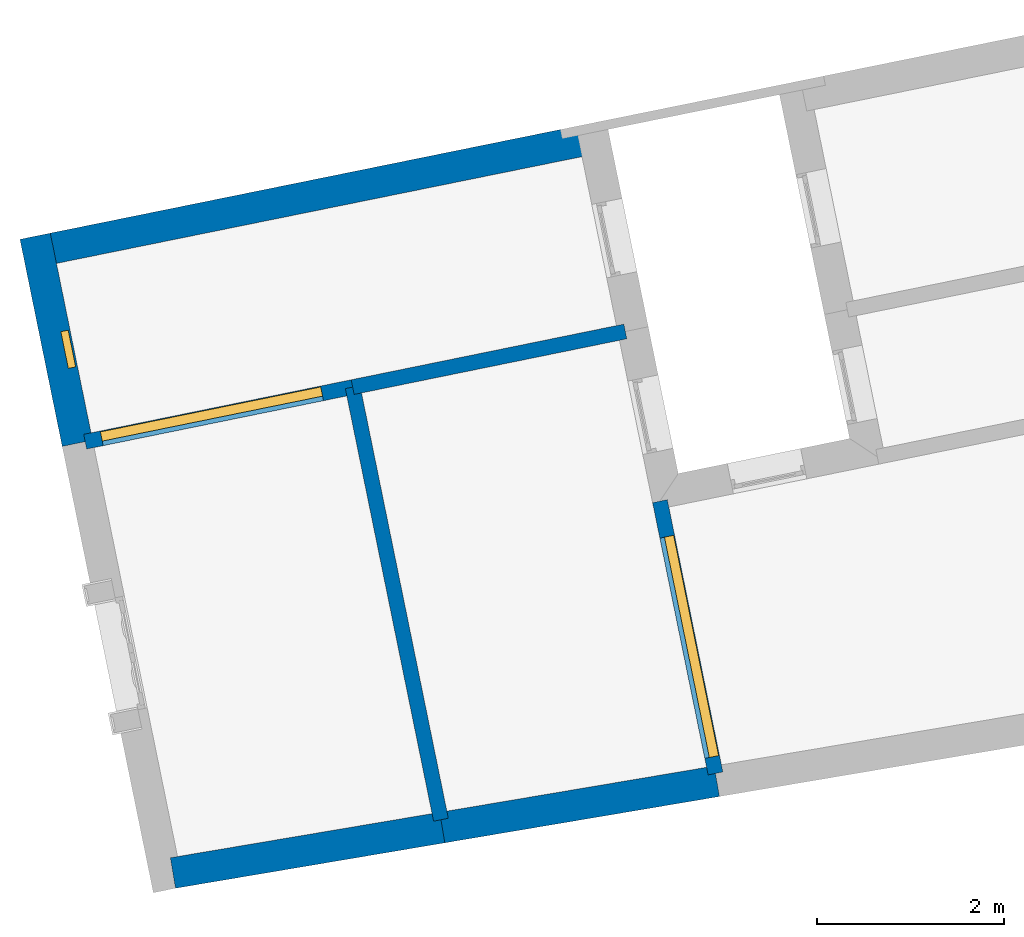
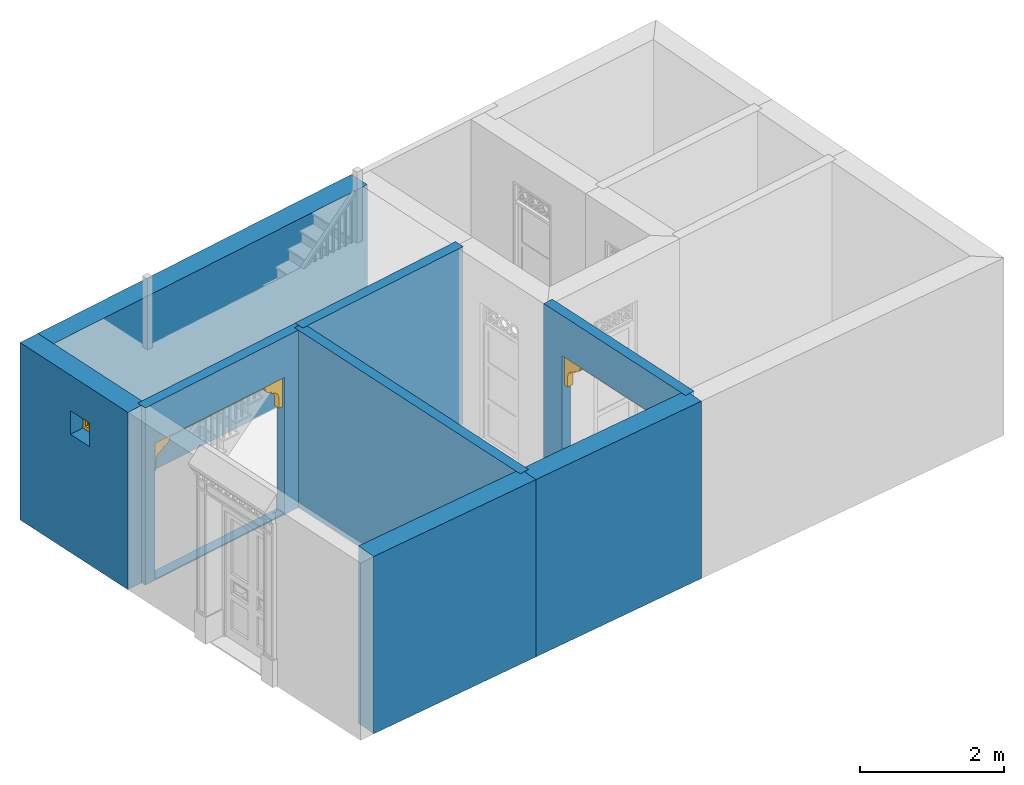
# One storey, part 3 of 11: 8 walls, 2 doors, 1 window, 3 openings.
"""IFC4 building model written with IfcOpenShell, lengths in metres."""

from ifc_helpers import new_model, si_unit, frame, origin, origin_with_axes, place, context, subcontext, project, spatial, polyline, outline, extrude, faceted_brep, source, transform, mapped, material, layer, layer_set, layer_usage, type_object, type_shapes, element, fill, save


model = new_model("IFC4")

# Units and contexts
model_context = context("Model", 3, world=origin_with_axes())
body_context = subcontext(model_context, "Body", "Model", "MODEL_VIEW")
ifc_project = project(units=[si_unit("PLANEANGLEUNIT", "RADIAN"), si_unit("MASSUNIT", "GRAM", prefix="KILO"), si_unit("FORCEUNIT", "NEWTON", prefix="KILO"), si_unit("LENGTHUNIT", "METRE"), si_unit("AREAUNIT", "SQUARE_METRE"), si_unit("VOLUMEUNIT", "CUBIC_METRE")], contexts=[model_context, model_context])

# Site, building, storey
site_placement = place(None, origin_with_axes())
site = spatial("IfcSite", under=ifc_project, at=site_placement, Name="Site plot-7", CompositionType="ELEMENT")
building_placement = place(None, origin_with_axes())
building = spatial("IfcBuilding", under=site, at=building_placement, Name="Building plot-7", CompositionType="ELEMENT")
storey_placement = place(None, origin_with_axes())
storey = spatial("IfcBuildingStorey", under=building, at=storey_placement, Name="plot-7 0", CompositionType="ELEMENT", Elevation=0.0)

# Wall, opening, window
ifc_material_1 = material(Name="Masonry")
ifc_layer_1 = layer(ifc_material_1, 0.33, ventilated=False)
ifc_layer_set_1 = layer_set([ifc_layer_1], Name="exterior_0.08_0.25")
ifc_layer_usage_1 = layer_usage(ifc_layer_set_1, "AXIS2", "POSITIVE", -0.25)
wall_type_1 = type_object("IfcWallType", Name="exterior_0.08_0.25", PredefinedType="SOLIDWALL", material=ifc_layer_set_1)
wall_1_placement = place(storey_placement, frame((-12.3516088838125, 10.9736854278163, 0.0), z_axis=(0.0, 0.0, 1.0), x_axis=(0.199943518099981, -0.979807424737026, 0.0)))
wall_1 = element("IfcWall", 1, at=wall_1_placement, inside=storey, type_object=wall_type_1, material=ifc_layer_usage_1, Name="exterior", context=body_context, shape_type="SweptSolid", body=[
    extrude(outline(polyline([(-0.249999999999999, 0.0800000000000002), (-0.25, -0.249999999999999), (2.00604607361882, -0.25), (2.00604607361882, 0.0799999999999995), (-0.249999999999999, 0.0800000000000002)])), origin_with_axes(), (0.0, 0.0, 1.0), 3.0),
])
opening_1_placement = place(wall_1_placement, frame((0.80302303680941, 0.0, 2.0)))
opening_1 = element("IfcOpeningElement", 2, at=opening_1_placement, cuts=wall_1, Name="My Opening", ObjectType="Opening", context=body_context, shape_type="SweptSolid", body=[
    extrude(outline(polyline([(0.0, -0.27), (0.4, -0.27), (0.4, 1.1), (-4.44089209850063e-16, 1.1), (0.0, -0.27)])), origin_with_axes(), (0.0, 0.0, 1.0), 0.4),
])
window_type = type_object("IfcWindowType", Name="barred_window", PartitioningType="DOUBLE_PANEL_HORIZONTAL", PredefinedType="NOTDEFINED")
shared_shape_1 = source(origin(), body_context, "Body", "Brep", [
    faceted_brep([(0.4, 0.25, 0.4), (0.0, 0.25, 0.4), (0.06, 0.25, 0.34), (0.34, 0.25, 0.34), (0.06, 0.33, 0.34), (0.34, 0.33, 0.34), (0.34, 0.25, 0.06), (0.4, 0.25, 0.0), (0.4, 0.33, 0.4), (0.0, 0.33, 0.4), (0.0, 0.25, 0.0), (0.06, 0.25, 0.06), (0.06, 0.33, 0.06), (0.34, 0.33, 0.06), (0.4, 0.33, 0.0), (0.0, 0.33, 0.0), (0.136152, 0.28, 0.08), (0.08, 0.28, 0.08), (0.06, 0.28, 0.06), (0.136152, 0.28, 0.06), (0.136152, 0.29, 0.08), (0.08, 0.29, 0.08), (0.06, 0.28, 0.136152), (0.08, 0.28, 0.136152), (0.06, 0.29, 0.06), (0.136152, 0.29, 0.06), (0.170294, 0.28, 0.08), (0.170294, 0.28, 0.06), (0.136152, 0.28, 0.136152), (0.136152, 0.29, 0.136152), (0.08, 0.29, 0.136152), (0.06, 0.29, 0.136152), (0.08, 0.28, 0.170294), (0.06, 0.28, 0.170294), (0.170294, 0.29, 0.06), (0.229706, 0.28, 0.08), (0.229706, 0.28, 0.06), (0.156152, 0.28, 0.094142), (0.156152, 0.28, 0.136152), (0.185858, 0.28, 0.123848), (0.185858, 0.29, 0.123848), (0.156152, 0.29, 0.094142), (0.156152, 0.29, 0.136152), (0.229706, 0.29, 0.08), (0.170294, 0.29, 0.08), (0.2, 0.28, 0.109706), (0.2, 0.29, 0.109706), (0.06, 0.29, 0.170294), (0.094142, 0.28, 0.156152), (0.08, 0.28, 0.229706), (0.06, 0.28, 0.229706), (0.229706, 0.29, 0.06), (0.263848, 0.28, 0.08), (0.263848, 0.28, 0.06), (0.156152, 0.28, 0.156152), (0.136152, 0.28, 0.156152), (0.173553, 0.28, 0.136152), (0.173553, 0.29, 0.136152), (0.156152, 0.29, 0.156152), (0.136152, 0.29, 0.156152), (0.094142, 0.29, 0.156152), (0.08, 0.29, 0.170294), (0.06, 0.29, 0.229706), (0.123848, 0.28, 0.185858), (0.109706, 0.28, 0.2), (0.08, 0.29, 0.229706), (0.08, 0.28, 0.263848), (0.06, 0.28, 0.263848), (0.263848, 0.29, 0.06), (0.2, 0.28, 0.13799), (0.214142, 0.28, 0.123848), (0.34, 0.28, 0.06), (0.32, 0.28, 0.08), (0.181838, 0.28, 0.156152), (0.136152, 0.28, 0.173553), (0.156152, 0.28, 0.181838), (0.181838, 0.29, 0.156152), (0.2, 0.29, 0.13799), (0.214142, 0.29, 0.123848), (0.136152, 0.29, 0.173553), (0.156152, 0.29, 0.181838), (0.243848, 0.28, 0.094142), (0.243848, 0.29, 0.094142), (0.263848, 0.28, 0.136152), (0.263848, 0.29, 0.08), (0.263848, 0.29, 0.136152), (0.32, 0.29, 0.08), (0.243848, 0.28, 0.136152), (0.243848, 0.29, 0.136152), (0.06, 0.29, 0.263848), (0.123848, 0.29, 0.185858), (0.13799, 0.28, 0.2), (0.123848, 0.28, 0.214142), (0.109706, 0.29, 0.2), (0.094142, 0.28, 0.243848), (0.08, 0.28, 0.32), (0.06, 0.28, 0.34), (0.34, 0.29, 0.06), (0.218162, 0.28, 0.156152), (0.226447, 0.28, 0.136152), (0.34, 0.28, 0.229706), (0.32, 0.28, 0.229706), (0.32, 0.28, 0.170294), (0.32, 0.28, 0.136152), (0.218162, 0.29, 0.156152), (0.226447, 0.29, 0.136152), (0.13799, 0.29, 0.2), (0.32, 0.29, 0.136152), (0.08, 0.29, 0.263848), (0.06, 0.29, 0.34), (0.136152, 0.28, 0.226447), (0.156152, 0.28, 0.218162), (0.094142, 0.29, 0.243848), (0.123848, 0.29, 0.214142), (0.136152, 0.28, 0.243848), (0.136152, 0.28, 0.263848), (0.08, 0.29, 0.32), (0.136152, 0.28, 0.34), (0.136152, 0.28, 0.32), (0.34, 0.29, 0.229706), (0.243848, 0.28, 0.156152), (0.263848, 0.28, 0.156152), (0.34, 0.28, 0.263848), (0.32, 0.28, 0.263848), (0.32, 0.29, 0.229706), (0.32, 0.29, 0.170294), (0.290294, 0.28, 0.2), (0.276152, 0.28, 0.185858), (0.305858, 0.28, 0.156152), (0.243848, 0.29, 0.156152), (0.263848, 0.29, 0.156152), (0.305858, 0.29, 0.156152), (0.276152, 0.29, 0.185858), (0.290294, 0.29, 0.2), (0.136152, 0.29, 0.34), (0.136152, 0.29, 0.226447), (0.156152, 0.29, 0.218162), (0.156152, 0.28, 0.243848), (0.136152, 0.29, 0.243848), (0.156152, 0.28, 0.263848), (0.136152, 0.29, 0.263848), (0.136152, 0.29, 0.32), (0.170294, 0.28, 0.32), (0.170294, 0.28, 0.34), (0.34, 0.29, 0.263848), (0.243848, 0.28, 0.181838), (0.263848, 0.28, 0.173553), (0.34, 0.28, 0.34), (0.32, 0.28, 0.32), (0.305858, 0.28, 0.243848), (0.276152, 0.28, 0.214142), (0.26201, 0.28, 0.2), (0.243848, 0.29, 0.181838), (0.263848, 0.29, 0.173553), (0.26201, 0.29, 0.2), (0.276152, 0.29, 0.214142), (0.32, 0.29, 0.263848), (0.170294, 0.29, 0.34), (0.156152, 0.29, 0.243848), (0.173553, 0.28, 0.263848), (0.181838, 0.28, 0.243848), (0.156152, 0.28, 0.305858), (0.229706, 0.28, 0.32), (0.229706, 0.28, 0.34), (0.34, 0.29, 0.34), (0.263848, 0.28, 0.34), (0.263848, 0.28, 0.32), (0.32, 0.29, 0.32), (0.263848, 0.28, 0.263848), (0.263848, 0.28, 0.243848), (0.305858, 0.29, 0.243848), (0.263848, 0.28, 0.226447), (0.243848, 0.28, 0.218162), (0.243848, 0.29, 0.218162), (0.263848, 0.29, 0.226447), (0.156152, 0.29, 0.263848), (0.170294, 0.29, 0.32), (0.229706, 0.29, 0.34), (0.181838, 0.29, 0.243848), (0.173553, 0.29, 0.263848), (0.185858, 0.28, 0.276152), (0.2, 0.28, 0.26201), (0.156152, 0.29, 0.305858), (0.229706, 0.29, 0.32), (0.263848, 0.29, 0.34), (0.263848, 0.29, 0.32), (0.263848, 0.29, 0.263848), (0.243848, 0.28, 0.243848), (0.243848, 0.28, 0.263848), (0.263848, 0.29, 0.243848), (0.243848, 0.29, 0.243848), (0.2, 0.29, 0.26201), (0.185858, 0.29, 0.276152), (0.214142, 0.28, 0.276152), (0.218162, 0.28, 0.243848), (0.226447, 0.28, 0.263848), (0.243848, 0.28, 0.305858), (0.2, 0.28, 0.290294), (0.2, 0.29, 0.290294), (0.243848, 0.29, 0.263848), (0.218162, 0.29, 0.243848), (0.214142, 0.29, 0.276152), (0.226447, 0.29, 0.263848), (0.243848, 0.29, 0.305858)], [[[0, 1, 2, 3]], [[3, 2, 4, 5]], [[3, 6, 7, 0]], [[1, 0, 8, 9]], [[1, 10, 11, 2]], [[2, 11, 12, 4]], [[9, 8, 5, 4]], [[6, 3, 5, 13]], [[6, 11, 10, 7]], [[0, 7, 14, 8]], [[10, 1, 9, 15]], [[11, 6, 13, 12]], [[4, 12, 15, 9]], [[8, 14, 13, 5]], [[7, 10, 15, 14]], [[12, 13, 14, 15]], [[16, 17, 18, 19]], [[17, 16, 20, 21]], [[22, 18, 17, 23]], [[19, 18, 24, 25]], [[26, 16, 19, 27]], [[16, 28, 29, 20]], [[21, 20, 25, 24]], [[23, 17, 21, 30]], [[18, 22, 31, 24]], [[23, 32, 33, 22]], [[27, 19, 25, 34]], [[35, 26, 27, 36]], [[28, 16, 37, 38]], [[37, 39, 40, 41]], [[38, 37, 41, 42]], [[20, 29, 42, 41]], [[26, 35, 43, 44]], [[45, 26, 44, 46]], [[20, 44, 34, 25]], [[28, 23, 30, 29]], [[24, 31, 30, 21]], [[22, 33, 47, 31]], [[48, 32, 23]], [[32, 49, 50, 33]], [[36, 27, 34, 51]], [[39, 37, 26, 45]], [[52, 35, 36, 53]], [[38, 54, 55, 28]], [[39, 56, 57, 40]], [[41, 40, 46, 44]], [[56, 38, 42, 57]], [[58, 42, 29, 59]], [[35, 45, 46, 43]], [[44, 43, 51, 34]], [[23, 28, 55, 48]], [[29, 30, 60, 59]], [[61, 30, 31, 47]], [[33, 50, 62, 47]], [[48, 63, 64, 32]], [[49, 32, 61, 65]], [[49, 66, 67, 50]], [[53, 36, 51, 68]], [[69, 39, 45, 70]], [[53, 71, 72, 52]], [[73, 54, 38, 56]], [[74, 55, 54, 75]], [[56, 39, 69, 73]], [[40, 57, 76, 77]], [[40, 77, 78, 46]], [[58, 76, 57, 42]], [[59, 79, 80, 58]], [[45, 35, 81, 70]], [[43, 46, 78, 82]], [[83, 52, 84, 85]], [[82, 84, 43]], [[52, 72, 86, 84]], [[43, 84, 68, 51]], [[44, 20, 41]], [[70, 81, 82, 78]], [[81, 87, 88, 82]], [[48, 55, 59, 60]], [[61, 60, 30]], [[65, 61, 47, 62]], [[50, 67, 89, 62]], [[63, 48, 60, 90]], [[63, 91, 92, 64]], [[32, 64, 93, 61]], [[64, 49, 65, 93]], [[94, 66, 49]], [[66, 95, 96, 67]], [[71, 53, 68, 97]], [[98, 69, 70, 99]], [[81, 52, 83, 87]], [[72, 71, 100]], [[100, 101, 102]], [[103, 72, 100]], [[100, 102, 103]], [[54, 73, 76, 58]], [[55, 74, 79, 59]], [[75, 54, 58, 80]], [[63, 74, 75, 91]], [[73, 69, 77, 76]], [[77, 104, 105, 78]], [[79, 90, 106, 80]], [[84, 82, 88, 85]], [[103, 83, 85, 107]], [[72, 103, 107, 86]], [[97, 68, 84, 86]], [[99, 70, 78, 105]], [[87, 99, 105, 88]], [[90, 60, 61, 93]], [[108, 65, 62, 89]], [[67, 96, 109, 89]], [[74, 63, 90, 79]], [[110, 92, 91, 111]], [[49, 64, 92, 94]], [[93, 65, 112, 113]], [[94, 114, 115, 66]], [[95, 66, 108, 116]], [[117, 96, 95, 118]], [[100, 71, 97, 119]], [[69, 98, 104, 77]], [[99, 87, 120, 98]], [[87, 83, 121, 120]], [[101, 100, 122, 123]], [[102, 101, 124, 125]], [[121, 83, 103]], [[103, 102, 126]], [[126, 127, 128]], [[128, 121, 103]], [[103, 126, 128]], [[91, 75, 80, 106]], [[88, 105, 104, 129]], [[106, 90, 93, 113]], [[85, 88, 129, 130]], [[107, 85, 130]], [[131, 132, 133]], [[107, 130, 131]], [[133, 125, 107]], [[107, 131, 133]], [[124, 119, 97]], [[97, 86, 107]], [[107, 125, 124]], [[97, 107, 124]], [[108, 112, 65]], [[116, 108, 89, 109]], [[96, 117, 134, 109]], [[92, 110, 135, 113]], [[111, 91, 106, 136]], [[114, 110, 111, 137]], [[94, 92, 113, 112]], [[114, 94, 112, 138]], [[114, 137, 139, 115]], [[66, 115, 140, 108]], [[118, 95, 116, 141]], [[118, 142, 143, 117]], [[122, 100, 119, 144]], [[98, 120, 129, 104]], [[145, 120, 121, 146]], [[122, 147, 148, 123]], [[123, 149, 101]], [[101, 126, 133, 124]], [[126, 102, 125, 133]], [[127, 126, 150, 151]], [[128, 127, 132, 131]], [[121, 128, 131, 130]], [[113, 135, 136, 106]], [[129, 152, 153, 130]], [[133, 132, 154, 155]], [[119, 124, 156, 144]], [[138, 112, 108, 140]], [[109, 134, 141, 116]], [[117, 143, 157, 134]], [[110, 114, 138, 135]], [[137, 111, 136, 158]], [[159, 139, 137, 160]], [[118, 115, 139, 161]], [[115, 118, 141, 140]], [[161, 142, 118]], [[162, 163, 143, 142]], [[147, 122, 144, 164]], [[120, 145, 152, 129]], [[146, 121, 130, 153]], [[146, 127, 151, 145]], [[147, 165, 166, 148]], [[123, 148, 167, 156]], [[149, 123, 168, 169]], [[149, 150, 126, 101]], [[155, 170, 124, 133]], [[151, 150, 171, 172]], [[127, 146, 153, 132]], [[135, 138, 158, 136]], [[132, 153, 152, 154]], [[155, 154, 173, 174]], [[170, 156, 124]], [[164, 144, 156, 167]], [[158, 138, 140, 175]], [[176, 141, 134, 157]], [[143, 163, 177, 157]], [[160, 137, 158, 178]], [[139, 159, 179, 175]], [[180, 159, 160, 181]], [[161, 139, 175, 182]], [[140, 141, 182, 175]], [[166, 165, 163, 162]], [[162, 142, 176, 183]], [[165, 147, 164, 184]], [[145, 151, 154, 152]], [[148, 166, 185, 167]], [[156, 186, 168, 123]], [[187, 169, 168, 188]], [[149, 169, 189, 170]], [[150, 149, 170, 155]], [[171, 150, 155, 174]], [[171, 169, 187, 172]], [[151, 172, 173, 154]], [[189, 174, 173, 190]], [[156, 170, 189, 186]], [[184, 164, 167, 185]], [[175, 179, 178, 158]], [[176, 182, 141]], [[177, 183, 176, 157]], [[163, 165, 184, 177]], [[181, 160, 178, 191]], [[159, 180, 192, 179]], [[180, 161, 182, 192]], [[193, 181, 194, 195]], [[196, 162, 197, 193]], [[180, 197, 142, 161]], [[197, 180, 181, 193]], [[142, 197, 198, 176]], [[162, 196, 166]], [[35, 52, 81]], [[197, 162, 183, 198]], [[185, 166, 168, 186]], [[196, 188, 168, 166]], [[187, 188, 195, 194]], [[169, 171, 174, 189]], [[172, 187, 190, 173]], [[189, 190, 199, 186]], [[184, 185, 183, 177]], [[179, 192, 191, 178]], [[176, 198, 192, 182]], [[194, 181, 191, 200]], [[191, 192, 198, 201]], [[26, 37, 16]], [[193, 195, 202, 201]], [[196, 193, 201, 203]], [[191, 201, 202, 200]], [[183, 203, 201, 198]], [[188, 196, 203, 199]], [[203, 183, 185]], [[199, 203, 185, 186]], [[195, 188, 199, 202]], [[187, 194, 200, 190]], [[199, 190, 200, 202]]]),
])
type_shapes(window_type, [shared_shape_1])
window_placement = place(storey_placement, frame((-12.4555976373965, 10.1328927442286, 2.0), z_axis=(0.0, 0.0, 1.0), x_axis=(0.0799774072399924, -0.391922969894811, 0.0)))
window = element("IfcWindow", 3, at=window_placement, inside=storey, type_object=window_type, Name="circulation street window", OverallHeight=0.4, OverallWidth=0.4, context=body_context, shape_type="MappedRepresentation", body=[
    mapped(shared_shape_1, transform((0.0, 0.0, 0.0), scale=1.0)),
])
fill(opening_1, window)

# Walls
ifc_material_2 = material(Name="Masonry")
ifc_layer_2 = layer(ifc_material_2, 0.33, ventilated=False)
ifc_layer_set_2 = layer_set([ifc_layer_2], Name="party_0.08_0.25")
ifc_layer_usage_2 = layer_usage(ifc_layer_set_2, "AXIS2", "POSITIVE", -0.25)
wall_type_2 = type_object("IfcWallType", Name="party_0.08_0.25", PredefinedType="SOLIDWALL", material=ifc_layer_set_2)
wall_2_placement = place(storey_placement, frame((-11.0280231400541, 4.48755798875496, 0.0), z_axis=(0.0, 0.0, 1.0), x_axis=(0.986076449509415, 0.166292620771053, 0.0)))
element("IfcWall", 4, at=wall_2_placement, inside=storey, type_object=wall_type_2, material=ifc_layer_usage_2, Name="party", context=body_context, shape_type="SweptSolid", body=[
    extrude(outline(polyline([(-2.97082075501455e-16, 0.0800000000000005), (-9.57142174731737e-17, -0.25), (2.91597079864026, -0.25), (2.91597079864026, 0.0800000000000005), (-2.97082075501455e-16, 0.0800000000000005)])), origin_with_axes(), (0.0, 0.0, 1.0), 3.0),
])
wall_3_placement = place(storey_placement, frame((-8.15265300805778, 4.97246241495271, 0.0), z_axis=(0.0, 0.0, 1.0), x_axis=(0.986076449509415, 0.166292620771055, 0.0)))
element("IfcWall", 5, at=wall_3_placement, inside=storey, type_object=wall_type_2, material=ifc_layer_usage_2, Name="party", context=body_context, shape_type="SweptSolid", body=[
    extrude(outline(polyline([(-1.72737096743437e-16, 0.0800000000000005), (-4.84292276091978e-16, -0.25), (2.97240278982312, -0.25), (2.97240278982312, 0.0799999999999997), (-1.72737096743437e-16, 0.0800000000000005)])), origin_with_axes(), (0.0, 0.0, 1.0), 3.0),
])
wall_4_placement = place(storey_placement, frame((-6.58443454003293, 12.1450346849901, 0.0), z_axis=(0.0, 0.0, 1.0), x_axis=(-0.979990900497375, -0.199042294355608, 0.0)))
element("IfcWall", 6, at=wall_4_placement, inside=storey, type_object=wall_type_2, material=ifc_layer_usage_2, Name="party", context=body_context, shape_type="SweptSolid", body=[
    extrude(outline(polyline([(-8.57500351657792e-17, 0.0800000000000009), (-4.28781124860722e-16, -0.25), (5.88492642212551, -0.25), (5.88492642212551, 0.0800000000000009), (-8.57500351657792e-17, 0.0800000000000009)])), origin_with_axes(), (0.0, 0.0, 1.0), 3.0),
])

# Wall, opening, door
ifc_material_3 = material(Name="Masonry")
ifc_layer_3 = layer(ifc_material_3, 0.16, ventilated=False)
ifc_layer_set_3 = layer_set([ifc_layer_3], Name="interior_0.08_0.08")
ifc_layer_usage_3 = layer_usage(ifc_layer_set_3, "AXIS2", "POSITIVE", -0.08)
wall_type_3 = type_object("IfcWallType", Name="interior_0.08_0.08", PredefinedType="SOLIDWALL", material=ifc_layer_set_3)
wall_5_placement = place(storey_placement, frame((-9.09509693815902, 9.59083448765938, 0.0), z_axis=(0.0, 0.0, 1.0), x_axis=(-0.979807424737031, -0.199943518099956, 0.0)))
wall_5 = element("IfcWall", 7, at=wall_5_placement, inside=storey, type_object=wall_type_3, material=ifc_layer_usage_3, Name="interior", context=body_context, shape_type="SweptSolid", body=[
    extrude(outline(polyline([(-1.46957615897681e-17, 0.0799999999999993), (4.04257239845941e-17, -0.0799999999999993), (2.91426250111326, -0.0799999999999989), (2.91426250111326, 0.0799999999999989), (-1.46957615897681e-17, 0.0799999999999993)])), origin_with_axes(), (0.0, 0.0, 1.0), 3.0),
])
opening_2_placement = place(wall_5_placement, frame((0.334262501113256, 0.0, 0.02)))
opening_2 = element("IfcOpeningElement", 8, at=opening_2_placement, cuts=wall_5, Name="My Opening", ObjectType="Opening", context=body_context, shape_type="SweptSolid", body=[
    extrude(outline(polyline([(0.0, -0.1), (2.4, -0.0999999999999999), (2.4, 1.1), (1.77635683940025e-15, 1.1), (0.0, -0.1)])), origin_with_axes(), (0.0, 0.0, 1.0), 2.3),
])
door_type = type_object("IfcDoorType", Name="arch-2400x2300-thin", OperationType="SINGLE_SWING_LEFT", PredefinedType="NOTDEFINED")
shared_shape_2 = source(origin(), body_context, "Body", "Brep", [
    faceted_brep([(2.4, 0.03, 1.78), (2.4, 0.03, 1.95), (2.34, 0.03, 1.95), (2.34, 0.03, 1.78), (2.34, 0.13, 1.95), (2.34, 0.13, 1.78), (2.4, 0.03, 2.12), (2.329, 0.03, 2.004), (2.4, 0.13, 1.78), (2.4, 0.13, 1.95), (2.329, 0.13, 2.004), (2.299, 0.03, 2.049), (2.4, 0.13, 2.12), (2.299, 0.13, 2.049), (2.254, 0.03, 2.079), (2.4, 0.13, 2.29), (2.4, 0.03, 2.29), (2.254, 0.13, 2.079), (2.2, 0.03, 2.09), (2.2, 0.03, 2.12), (2.154, 0.03, 2.129), (2.08, 0.13, 2.29), (2.08, 0.03, 2.29), (2.2, 0.13, 2.12), (2.154, 0.13, 2.129), (2.2, 0.13, 2.09), (2.115, 0.03, 2.155), (2.089, 0.13, 2.194), (2.08, 0.13, 2.24), (2.08, 0.03, 2.24), (2.089, 0.03, 2.194), (2.115, 0.13, 2.155), (0.06, 0.03, 1.78), (0.06, 0.03, 1.95), (0.0, 0.03, 1.95), (0.0, 0.03, 1.78), (0.06, 0.13, 1.78), (0.06, 0.13, 1.95), (0.071, 0.03, 2.004), (0.0, 0.03, 2.12), (0.0, 0.13, 1.95), (0.0, 0.13, 1.78), (0.071, 0.13, 2.004), (0.101, 0.03, 2.049), (0.0, 0.13, 2.12), (0.101, 0.13, 2.049), (0.146, 0.03, 2.079), (0.0, 0.03, 2.29), (0.0, 0.13, 2.29), (0.146, 0.13, 2.079), (0.2, 0.03, 2.12), (0.2, 0.03, 2.09), (0.246, 0.03, 2.129), (0.32, 0.03, 2.29), (0.32, 0.13, 2.29), (0.246, 0.13, 2.129), (0.2, 0.13, 2.12), (0.2, 0.13, 2.09), (0.285, 0.03, 2.155), (0.32, 0.13, 2.24), (0.311, 0.13, 2.194), (0.311, 0.03, 2.194), (0.32, 0.03, 2.24), (0.285, 0.13, 2.155)], [[[0, 1, 2, 3]], [[4, 5, 3, 2]], [[1, 6, 7, 2]], [[1, 0, 8, 9]], [[5, 8, 0, 3]], [[5, 4, 9, 8]], [[10, 4, 2, 7]], [[6, 11, 7]], [[6, 1, 9, 12]], [[4, 10, 12, 9]], [[13, 10, 7, 11]], [[6, 14, 11]], [[12, 15, 16, 6]], [[12, 10, 13]], [[17, 13, 11, 14]], [[18, 14, 6, 19]], [[6, 16, 20, 19]], [[16, 15, 21, 22]], [[23, 24, 15, 12]], [[12, 13, 17]], [[25, 17, 14, 18]], [[23, 25, 18, 19]], [[24, 23, 19, 20]], [[16, 26, 20]], [[15, 27, 28, 21]], [[16, 22, 29, 30]], [[31, 15, 24]], [[23, 12, 17, 25]], [[31, 24, 20, 26]], [[16, 30, 26]], [[28, 27, 30, 29]], [[27, 15, 31]], [[27, 31, 26, 30]], [[32, 33, 34, 35]], [[33, 32, 36, 37]], [[33, 38, 39, 34]], [[35, 34, 40, 41]], [[32, 35, 41, 36]], [[41, 40, 37, 36]], [[38, 33, 37, 42]], [[38, 43, 39]], [[44, 40, 34, 39]], [[40, 44, 42, 37]], [[43, 38, 42, 45]], [[43, 46, 39]], [[39, 47, 48, 44]], [[45, 42, 44]], [[46, 43, 45, 49]], [[50, 39, 46, 51]], [[50, 52, 47, 39]], [[53, 54, 48, 47]], [[44, 48, 55, 56]], [[49, 45, 44]], [[51, 46, 49, 57]], [[50, 51, 57, 56]], [[52, 50, 56, 55]], [[52, 58, 47]], [[54, 59, 60, 48]], [[61, 62, 53, 47]], [[55, 48, 63]], [[57, 49, 44, 56]], [[58, 52, 55, 63]], [[58, 61, 47]], [[62, 61, 60, 59]], [[63, 48, 60]], [[61, 58, 63, 60]], [[62, 59, 28, 29]], [[59, 54, 21, 28]], [[53, 62, 29, 22]], [[54, 53, 22, 21]]]),
])
type_shapes(door_type, [shared_shape_2])
door_1_placement = place(storey_placement, frame((-9.44260417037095, 9.62198160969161, 0.02), z_axis=(0.0, 0.0, 1.0), x_axis=(-2.35153781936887, -0.479864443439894, 0.0)))
door_1 = element("IfcDoor", 9, at=door_1_placement, inside=storey, type_object=door_type, Name="circulation inside door", OverallHeight=2.3, OverallWidth=2.4, context=body_context, shape_type="MappedRepresentation", body=[
    mapped(shared_shape_2, transform((0.0, 0.0, 0.0), scale=1.0)),
])
fill(opening_2, door_1)

# Walls
wall_6_placement = place(storey_placement, frame((-9.09509693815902, 9.59083448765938, 0.0), z_axis=(0.0, 0.0, 1.0), x_axis=(0.199943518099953, -0.979807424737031, 0.0)))
element("IfcWall", 10, at=wall_6_placement, inside=storey, type_object=wall_type_3, material=ifc_layer_usage_3, Name="interior", context=body_context, shape_type="SweptSolid", body=[
    extrude(outline(polyline([(-2.26027801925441e-16, 0.0799999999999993), (1.9846705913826e-16, -0.0799999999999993), (4.71355080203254, -0.0799999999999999), (4.71355080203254, 0.0799999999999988), (-2.26027801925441e-16, 0.0799999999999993)])), origin_with_axes(), (0.0, 0.0, 1.0), 3.0),
])
wall_7_placement = place(storey_placement, frame((-9.09509693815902, 9.59083448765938, 0.0), z_axis=(0.0, 0.0, 1.0), x_axis=(0.979807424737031, 0.199943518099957, 0.0)))
element("IfcWall", 11, at=wall_7_placement, inside=storey, type_object=wall_type_3, material=ifc_layer_usage_3, Name="interior", context=body_context, shape_type="SweptSolid", body=[
    extrude(outline(polyline([(1.29243565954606e-16, 0.0799999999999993), (-1.19446391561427e-16, -0.0799999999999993), (2.97066143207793, -0.0799999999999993), (2.97066143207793, 0.0799999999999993), (1.29243565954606e-16, 0.0799999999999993)])), origin_with_axes(), (0.0, 0.0, 1.0), 3.0),
])

# Wall, opening, door
wall_8_placement = place(storey_placement, frame((-5.22163661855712, 5.46675106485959, 0.0), z_axis=(0.0, 0.0, 1.0), x_axis=(-0.199943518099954, 0.979807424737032, 0.0)))
wall_8 = element("IfcWall", 12, at=wall_8_placement, inside=storey, type_object=wall_type_3, material=ifc_layer_usage_3, Name="interior", context=body_context, shape_type="SweptSolid", body=[
    extrude(outline(polyline([(2.2662155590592e-17, 0.0800000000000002), (-1.28649811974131e-17, -0.0800000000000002), (2.96650895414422, -0.0800000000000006), (2.96650895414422, 0.0799999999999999), (2.2662155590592e-17, 0.0800000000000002)])), origin_with_axes(), (0.0, 0.0, 1.0), 3.0),
])
opening_3_placement = place(wall_8_placement, frame((0.179999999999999, 0.0, 0.02)))
opening_3 = element("IfcOpeningElement", 13, at=opening_3_placement, cuts=wall_8, Name="My Opening", ObjectType="Opening", context=body_context, shape_type="SweptSolid", body=[
    extrude(outline(polyline([(0.0, -0.100000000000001), (2.4, -0.1), (2.4, 1.1), (6.66133814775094e-16, 1.1), (0.0, -0.100000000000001)])), origin_with_axes(), (0.0, 0.0, 1.0), 2.3),
])
door_2_placement = place(storey_placement, frame((-5.15964570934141, 5.66311075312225, 0.02), z_axis=(0.0, 0.0, 1.0), x_axis=(-0.47986444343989, 2.35153781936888, 0.0)))
door_2 = element("IfcDoor", 14, at=door_2_placement, inside=storey, type_object=door_type, Name="kitchen living inside door", OverallHeight=2.3, OverallWidth=2.4, context=body_context, shape_type="MappedRepresentation", body=[
    mapped(shared_shape_2, transform((0.0, 0.0, 0.0), scale=1.0)),
])
fill(opening_3, door_2)

save(model, "model.ifc")
